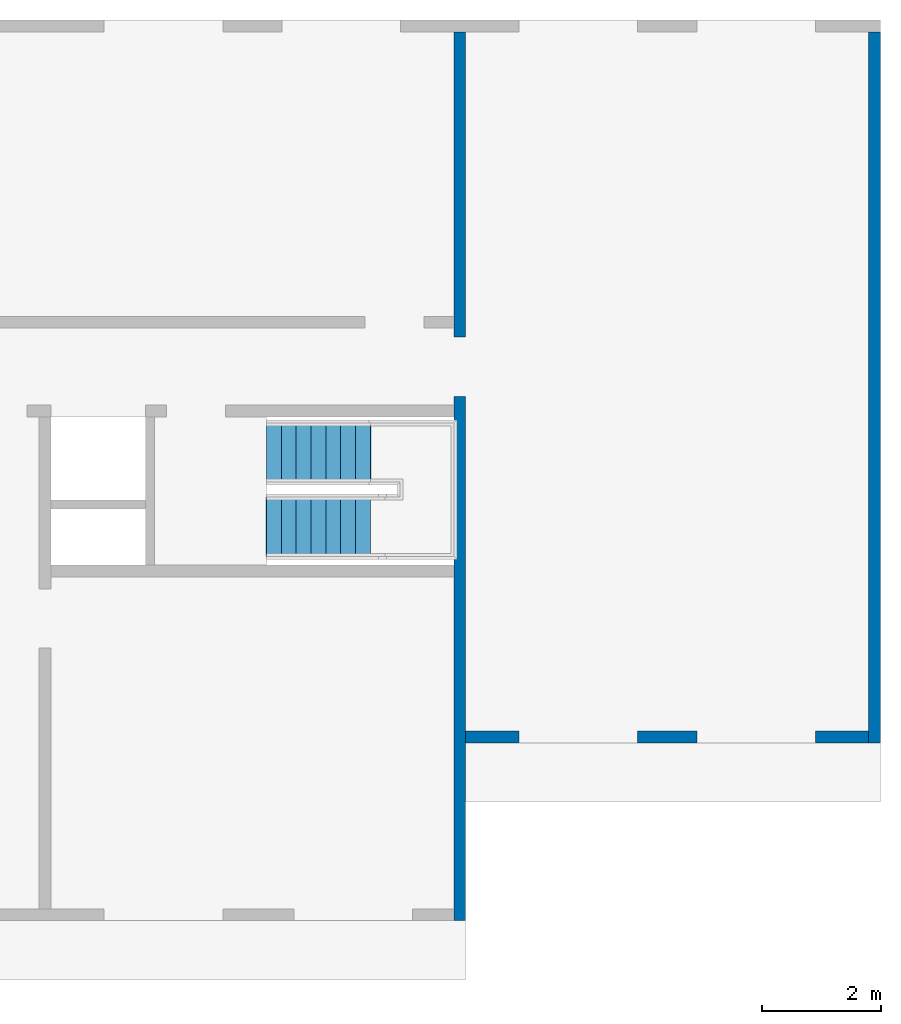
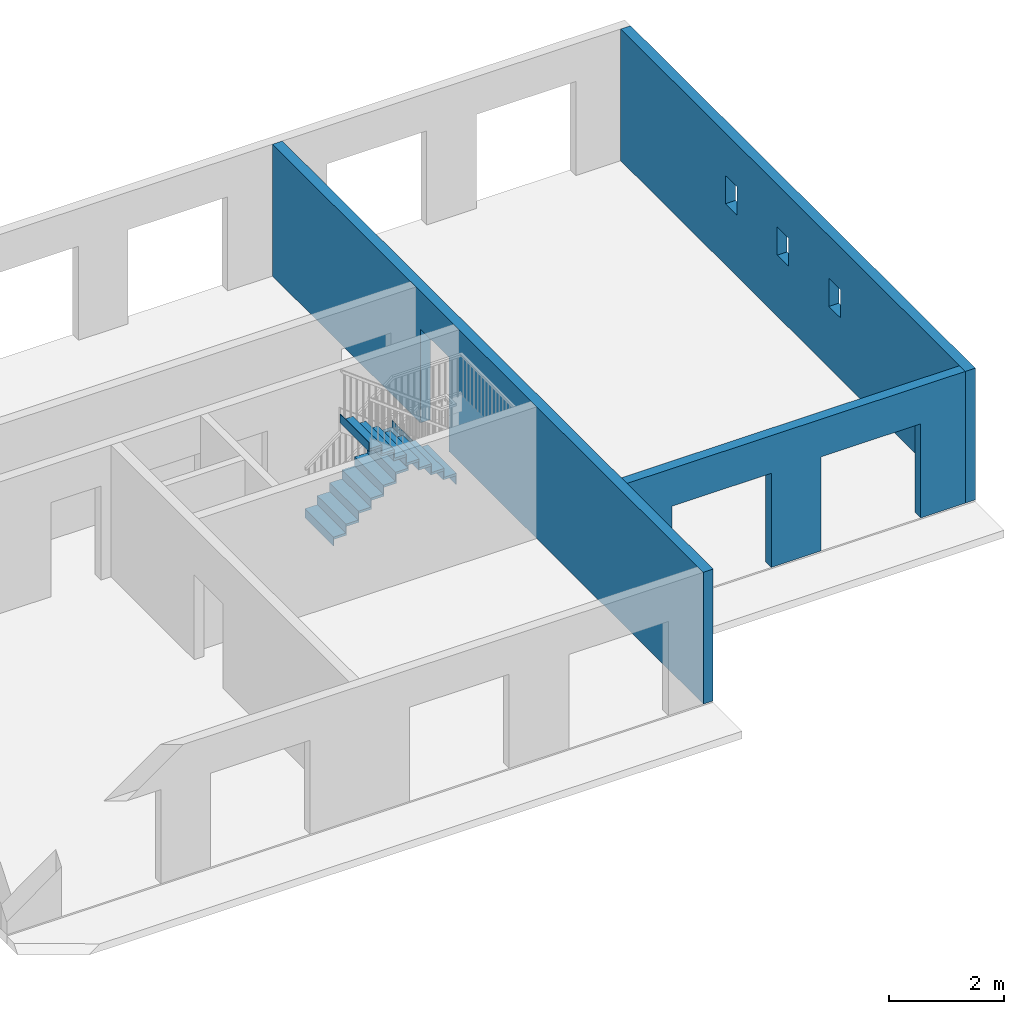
# One storey, part 2 of 3: 3 walls, 2 stair flights, 6 openings, 1 element without a shape of its own.
"""IFC2X3 building model written with IfcOpenShell, lengths in metres."""

from ifc_helpers import new_model, entity, si_unit, converted_unit, derived_unit, direction, frame, frame_2d, origin, origin_2d_with_axis, place, context, subcontext, project, spatial, rectangle, extrude, material, layer, layer_set, layer_usage, type_object, element, aggregate, save


model = new_model("IFC2X3")

# Units and contexts
model_context = context("Model", 3, precision=1e-05, world=origin(), true_north=direction((6.12303176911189e-17, 1.0)))
body_context = subcontext(model_context, "Body", "Model", "MODEL_VIEW")
ifc_project = project(units=[si_unit("LENGTHUNIT", "METRE"), si_unit("AREAUNIT", "SQUARE_METRE"), si_unit("VOLUMEUNIT", "CUBIC_METRE"), converted_unit("PLANEANGLEUNIT", "DEGREE", entity("IfcRatioMeasure", 0.0174532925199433), si_unit("PLANEANGLEUNIT", "RADIAN"), dimensions=[0, 0, 0, 0, 0, 0, 0]), si_unit("MASSUNIT", "GRAM", prefix="KILO"), derived_unit("MASSDENSITYUNIT", [(si_unit("MASSUNIT", "GRAM", prefix="KILO"), 1), (si_unit("LENGTHUNIT", "METRE"), -3)]), si_unit("TIMEUNIT", "SECOND"), si_unit("FREQUENCYUNIT", "HERTZ"), si_unit("THERMODYNAMICTEMPERATUREUNIT", "DEGREE_CELSIUS"), derived_unit("THERMALTRANSMITTANCEUNIT", [(si_unit("MASSUNIT", "GRAM", prefix="KILO"), 1), (si_unit("THERMODYNAMICTEMPERATUREUNIT", "KELVIN"), -1), (si_unit("TIMEUNIT", "SECOND"), -3)]), derived_unit("VOLUMETRICFLOWRATEUNIT", [(si_unit("LENGTHUNIT", "METRE"), 3), (si_unit("TIMEUNIT", "SECOND"), -1)]), si_unit("ELECTRICCURRENTUNIT", "AMPERE"), si_unit("ELECTRICVOLTAGEUNIT", "VOLT"), si_unit("POWERUNIT", "WATT"), si_unit("FORCEUNIT", "NEWTON"), si_unit("ILLUMINANCEUNIT", "LUX"), si_unit("LUMINOUSFLUXUNIT", "LUMEN"), si_unit("LUMINOUSINTENSITYUNIT", "CANDELA"), derived_unit("USERDEFINED", [(si_unit("MASSUNIT", "GRAM", prefix="KILO"), -1), (si_unit("LENGTHUNIT", "METRE"), -2), (si_unit("TIMEUNIT", "SECOND"), 3), (si_unit("LUMINOUSFLUXUNIT", "LUMEN"), 1)]), derived_unit("LINEARVELOCITYUNIT", [(si_unit("LENGTHUNIT", "METRE"), 1), (si_unit("TIMEUNIT", "SECOND"), -1)]), si_unit("PRESSUREUNIT", "PASCAL"), derived_unit("USERDEFINED", [(si_unit("LENGTHUNIT", "METRE"), -2), (si_unit("MASSUNIT", "GRAM", prefix="KILO"), 1), (si_unit("TIMEUNIT", "SECOND"), -2)])], contexts=[model_context])

# Site, building, storey
site_placement = place(None, origin())
site = spatial("IfcSite", under=ifc_project, at=site_placement, Name="Default", CompositionType="ELEMENT")
building_placement = place(site_placement, origin())
building = spatial("IfcBuilding", under=site, at=building_placement, CompositionType="ELEMENT")
storey_placement = place(building_placement, frame((0.0, 0.0, 6.0)))
storey = spatial("IfcBuildingStorey", under=building, at=storey_placement, Name="R+2", CompositionType="ELEMENT", Elevation=5.99999999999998)

# Wall, openings
ifc_material = material(Name="Béton - Coulé sur place - Béton20")
ifc_layer = layer(ifc_material, 0.2)
ifc_layer_set = layer_set([ifc_layer], Name="Mur de base:Générique - 200 mm")
ifc_layer_usage_1 = layer_usage(ifc_layer_set, "AXIS2", "NEGATIVE", 0.1)
wall_type = type_object("IfcWallType", Name="Mur de base:Générique - 200 mm", PredefinedType="STANDARD", material=ifc_layer_set)
wall_1_placement = place(storey_placement, frame((15.7926639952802, 8.86181014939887, 0.200000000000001), z_axis=(0.0, 0.0, 1.0), x_axis=(0.0, -1.0, 0.0)))
wall_1 = element("IfcWallStandardCase", 1, at=wall_1_placement, inside=storey, type_object=wall_type, material=ifc_layer_usage_1, Name="Mur de base:Générique - 200 mm", ObjectType="Mur de base:Générique - 200 mm:1044", context=body_context, shape_type="SweptSolid", body=[
    extrude(rectangle(XDim=12.0, YDim=0.200000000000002, at=frame_2d((6.0, 0.0), x_axis=(-1.0, 0.0))), origin(), (0.0, 0.0, 1.0), 2.80000000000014),
])
opening_1_placement = place(wall_1_placement, frame((8.86181014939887, -15.7926639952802, -0.200000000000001), z_axis=(0.0, 0.0, 1.0), x_axis=(0.0, 1.0, 0.0)))
element("IfcOpeningElement", 2, at=opening_1_placement, cuts=wall_1, Name="Mur de base:Générique - 200 mm", ObjectType="Opening", context=body_context, shape_type="SweptSolid", body=[
    extrude(rectangle(XDim=0.6, YDim=0.4, at=frame_2d((0.0, 1.08246744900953e-15), x_axis=(0.0, 1.0))), frame((14.1686639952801, 3.21181014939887, 1.8), z_axis=(1.0, 0.0, 0.0), x_axis=(0.0, -1.0, 0.0)), (0.0, 0.0, 1.0), 3.048),
])
opening_2_placement = place(wall_1_placement, frame((8.86181014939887, -15.7926639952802, -0.200000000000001), z_axis=(0.0, 0.0, 1.0), x_axis=(0.0, 1.0, 0.0)))
element("IfcOpeningElement", 3, at=opening_2_placement, cuts=wall_1, Name="Mur de base:Générique - 200 mm", ObjectType="Opening", context=body_context, shape_type="SweptSolid", body=[
    extrude(rectangle(XDim=0.6, YDim=0.400000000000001, at=frame_2d((-8.04911692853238e-16, 1.08246744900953e-15), x_axis=(0.0, 1.0))), frame((14.1686639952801, 5.01181014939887, 1.8), z_axis=(1.0, 0.0, 0.0), x_axis=(0.0, -1.0, 0.0)), (0.0, 0.0, 1.0), 3.048),
])
opening_3_placement = place(wall_1_placement, frame((8.86181014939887, -15.7926639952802, -0.200000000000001), z_axis=(0.0, 0.0, 1.0), x_axis=(0.0, 1.0, 0.0)))
element("IfcOpeningElement", 4, at=opening_3_placement, cuts=wall_1, Name="Mur de base:Générique - 200 mm", ObjectType="Opening", context=body_context, shape_type="SweptSolid", body=[
    extrude(rectangle(XDim=0.6, YDim=0.4, at=frame_2d((-6.93889390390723e-17, 1.08246744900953e-15), x_axis=(0.0, 1.0))), frame((14.1686639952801, 1.41181014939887, 1.8), z_axis=(1.0, 0.0, 0.0), x_axis=(0.0, -1.0, 0.0)), (0.0, 0.0, 1.0), 3.048),
])

ifc_layer_usage_2 = layer_usage(ifc_layer_set, "AXIS2", "NEGATIVE", 0.1)
wall_2_placement = place(storey_placement, frame((15.6926639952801, -3.03818985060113, 0.200000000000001), z_axis=(0.0, 0.0, 1.0), x_axis=(-1.0, 0.0, 0.0)))
wall_2 = element("IfcWallStandardCase", 5, at=wall_2_placement, inside=storey, type_object=wall_type, material=ifc_layer_usage_2, Name="Mur de base:Générique - 200 mm", ObjectType="Mur de base:Générique - 200 mm:1044", context=body_context, shape_type="SweptSolid", body=[
    extrude(rectangle(XDim=6.8, YDim=0.2, at=frame_2d((3.4, 2.22044604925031e-16), x_axis=(-1.0, 0.0))), origin(), (0.0, 0.0, 1.0), 2.80000000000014),
])
opening_4_placement = place(wall_2_placement, frame((15.6926639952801, -3.03818985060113, -0.200000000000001), z_axis=(0.0, 0.0, 1.0), x_axis=(-1.0, 0.0, 0.0)))
element("IfcOpeningElement", 6, at=opening_4_placement, cuts=wall_2, Name="Mur de base:Générique - 200 mm", ObjectType="Opening", context=body_context, shape_type="SweptSolid", body=[
    extrude(rectangle(XDim=2.0, YDim=2.0, at=frame_2d((0.0, 0.0), x_axis=(0.0, 1.0))), frame((10.7926639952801, -1.41418985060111, 1.2), z_axis=(0.0, -1.0, 0.0), x_axis=(-1.0, 0.0, 0.0)), (0.0, 0.0, 1.0), 3.048),
])
opening_5_placement = place(wall_2_placement, frame((15.6926639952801, -3.03818985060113, -0.200000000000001), z_axis=(0.0, 0.0, 1.0), x_axis=(-1.0, 0.0, 0.0)))
element("IfcOpeningElement", 7, at=opening_5_placement, cuts=wall_2, Name="Mur de base:Générique - 200 mm", ObjectType="Opening", context=body_context, shape_type="SweptSolid", body=[
    extrude(rectangle(XDim=2.0, YDim=2.0, at=frame_2d((0.0, 0.0), x_axis=(0.0, 1.0))), frame((13.7926639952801, -1.41418985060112, 1.2), z_axis=(0.0, -1.0, 0.0), x_axis=(-1.0, 0.0, 0.0)), (0.0, 0.0, 1.0), 3.048),
])

# Wall, opening
ifc_layer_usage_3 = layer_usage(ifc_layer_set, "AXIS2", "NEGATIVE", 0.1)
wall_3_placement = place(storey_placement, frame((8.79266399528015, 8.86181014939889, 0.200000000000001), z_axis=(0.0, 0.0, 1.0), x_axis=(0.0, -1.0, 0.0)))
wall_3 = element("IfcWallStandardCase", 8, at=wall_3_placement, inside=storey, type_object=wall_type, material=ifc_layer_usage_3, Name="Mur de base:Générique - 200 mm", ObjectType="Mur de base:Générique - 200 mm:1044", context=body_context, shape_type="SweptSolid", body=[
    extrude(rectangle(XDim=15.0, YDim=0.2, at=frame_2d((7.5, 0.0), x_axis=(-1.0, 0.0))), origin(), (0.0, 0.0, 1.0), 2.80000000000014),
])
opening_6_placement = place(wall_3_placement, frame((8.86181014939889, -8.79266399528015, -0.200000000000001), z_axis=(0.0, 0.0, 1.0), x_axis=(0.0, 1.0, 0.0)))
element("IfcOpeningElement", 9, at=opening_6_placement, cuts=wall_3, Name="Mur de base:Générique - 200 mm", ObjectType="Opening", context=body_context, shape_type="SweptSolid", body=[
    extrude(rectangle(XDim=2.0, YDim=1.0, at=frame_2d((-2.4980018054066e-16, 0.0), x_axis=(0.0, 1.0))), frame((7.16866399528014, 3.2118101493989, 1.2), z_axis=(1.0, 0.0, 0.0), x_axis=(0.0, -1.0, 0.0)), (0.0, 0.0, 1.0), 3.048),
])

# Stair, stair flights
stair_placement = place(storey_placement, origin())
stair = element("IfcStair", 10, at=stair_placement, inside=storey, Name="Escalier assemblé:Escalier", ObjectType="Escalier assemblé:Contremarche 190 mm max marche 250\xa0mm", ShapeType="NOTDEFINED")
stair_flight_1_placement = place(stair_placement, origin())
stair_flight_1 = element("IfcStairFlight", 11, at=stair_flight_1_placement, Name="Escalier assemblé:Escalier:468124 Run 1", ObjectType="Escalier assemblé:Contremarche 190 mm max marche 250\xa0mm", NumberOfRiser=8, NumberOfTreads=7, RiserHeight=0.617569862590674, TreadLength=0.820209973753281, context=body_context, shape_type="SweptSolid", body=[
    extrude(rectangle(XDim=1.0, YDim=0.0125000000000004, at=frame_2d((0.0, -5.41233724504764e-16), x_axis=(1.0, 0.0))), frame((5.53891399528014, 1.76181014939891, 0.176470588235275), z_axis=(0.0, 0.0, 1.0), x_axis=(0.0, 1.0, 0.0)), (0.0, 0.0, 1.0), 0.138235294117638),
    extrude(rectangle(XDim=0.249999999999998, YDim=1.0, at=frame_2d((-5.41233724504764e-16, 1.66533453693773e-16), x_axis=(1.0, 0.0))), frame((5.65766399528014, 1.76181014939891, 0.314705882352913), z_axis=(0.0, 0.0, 1.0), x_axis=(-1.0, 0.0, 0.0)), (0.0, 0.0, 1.0), 0.0499999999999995),
    extrude(rectangle(XDim=1.0, YDim=0.0125000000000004, at=frame_2d((0.0, -5.41233724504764e-16), x_axis=(1.0, 0.0))), frame((5.78891399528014, 1.76181014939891, 0.314705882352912), z_axis=(0.0, 0.0, 1.0), x_axis=(0.0, 1.0, 0.0)), (0.0, 0.0, 1.0), 0.188235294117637),
    extrude(rectangle(XDim=0.250000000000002, YDim=1.0, at=frame_2d((0.0, 1.66533453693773e-16), x_axis=(1.0, 0.0))), frame((5.90766399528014, 1.76181014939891, 0.502941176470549), z_axis=(0.0, 0.0, 1.0), x_axis=(-1.0, 0.0, 0.0)), (0.0, 0.0, 1.0), 0.0499999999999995),
    extrude(rectangle(XDim=1.0, YDim=0.0125000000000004, at=frame_2d((0.0, -5.41233724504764e-16), x_axis=(1.0, 0.0))), frame((6.03891399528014, 1.76181014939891, 0.50294117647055), z_axis=(0.0, 0.0, 1.0), x_axis=(0.0, 1.0, 0.0)), (0.0, 0.0, 1.0), 0.188235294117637),
    extrude(rectangle(XDim=0.250000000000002, YDim=1.0, at=frame_2d((0.0, -1.66533453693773e-16), x_axis=(1.0, 0.0))), frame((6.15766399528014, 1.76181014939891, 0.691176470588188), z_axis=(0.0, 0.0, 1.0), x_axis=(-1.0, 0.0, 0.0)), (0.0, 0.0, 1.0), 0.0499999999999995),
    extrude(rectangle(XDim=1.0, YDim=0.0125000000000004, at=frame_2d((0.0, -5.41233724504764e-16), x_axis=(1.0, 0.0))), frame((6.28891399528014, 1.7618101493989, 0.691176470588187), z_axis=(0.0, 0.0, 1.0), x_axis=(0.0, 1.0, 0.0)), (0.0, 0.0, 1.0), 0.188235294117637),
    extrude(rectangle(XDim=0.250000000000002, YDim=1.0, at=frame_2d((0.0, 1.66533453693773e-16), x_axis=(1.0, 0.0))), frame((6.40766399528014, 1.7618101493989, 0.879411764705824), z_axis=(0.0, 0.0, 1.0), x_axis=(-1.0, 0.0, 0.0)), (0.0, 0.0, 1.0), 0.0499999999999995),
    extrude(rectangle(XDim=1.0, YDim=0.0125000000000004, at=frame_2d((0.0, -5.41233724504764e-16), x_axis=(1.0, 0.0))), frame((6.53891399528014, 1.7618101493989, 0.879411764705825), z_axis=(0.0, 0.0, 1.0), x_axis=(0.0, 1.0, 0.0)), (0.0, 0.0, 1.0), 0.188235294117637),
    extrude(rectangle(XDim=0.250000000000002, YDim=1.0, at=frame_2d((0.0, -1.66533453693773e-16), x_axis=(1.0, 0.0))), frame((6.65766399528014, 1.7618101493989, 1.06764705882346), z_axis=(0.0, 0.0, 1.0), x_axis=(-1.0, 0.0, 0.0)), (0.0, 0.0, 1.0), 0.0499999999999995),
    extrude(rectangle(XDim=1.0, YDim=0.0125000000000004, at=frame_2d((0.0, 5.41233724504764e-16), x_axis=(1.0, 0.0))), frame((6.78891399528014, 1.7618101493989, 1.06764705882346), z_axis=(0.0, 0.0, 1.0), x_axis=(0.0, 1.0, 0.0)), (0.0, 0.0, 1.0), 0.188235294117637),
    extrude(rectangle(XDim=0.250000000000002, YDim=1.0, at=frame_2d((0.0, 1.66533453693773e-16), x_axis=(1.0, 0.0))), frame((6.90766399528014, 1.7618101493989, 1.2558823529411), z_axis=(0.0, 0.0, 1.0), x_axis=(-1.0, 0.0, 0.0)), (0.0, 0.0, 1.0), 0.0499999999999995),
    extrude(rectangle(XDim=1.0, YDim=0.0125000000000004, at=frame_2d((0.0, -5.41233724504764e-16), x_axis=(1.0, 0.0))), frame((7.03891399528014, 1.7618101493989, 1.2558823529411), z_axis=(0.0, 0.0, 1.0), x_axis=(0.0, 1.0, 0.0)), (0.0, 0.0, 1.0), 0.188235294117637),
    extrude(rectangle(XDim=0.250000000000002, YDim=1.0, at=frame_2d((-1.08246744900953e-15, -1.66533453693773e-16), x_axis=(1.0, 0.0))), frame((7.15766399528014, 1.7618101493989, 1.44411764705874), z_axis=(0.0, 0.0, 1.0), x_axis=(-1.0, 0.0, 0.0)), (0.0, 0.0, 1.0), 0.0499999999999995),
    extrude(rectangle(XDim=1.0, YDim=0.0125000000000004, at=origin_2d_with_axis()), frame((7.28891399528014, 1.7618101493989, 1.44411764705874), z_axis=(0.0, 0.0, 1.0), x_axis=(0.0, 1.0, 0.0)), (0.0, 0.0, 1.0), 0.188235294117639),
])
stair_flight_2_placement = place(stair_placement, origin())
stair_flight_2 = element("IfcStairFlight", 12, at=stair_flight_2_placement, Name="Escalier assemblé:Escalier:468124 Run 2", ObjectType="Escalier assemblé:Contremarche 190 mm max marche 250\xa0mm", NumberOfRiser=8, NumberOfTreads=7, RiserHeight=0.617569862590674, TreadLength=0.820209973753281, context=body_context, shape_type="SweptSolid", body=[
    extrude(rectangle(XDim=1.0, YDim=0.0125000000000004, at=frame_2d((0.0, -1.08290112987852e-15), x_axis=(1.0, 0.0))), frame((7.27641399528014, 0.511810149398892, 1.63235294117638), z_axis=(0.0, 0.0, 1.0), x_axis=(0.0, -1.0, 0.0)), (0.0, 0.0, 1.0), 0.188235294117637),
    extrude(rectangle(XDim=0.249999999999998, YDim=1.0, at=frame_2d((5.41233724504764e-16, -2.77555756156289e-17), x_axis=(1.0, 0.0))), frame((7.15766399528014, 0.511810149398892, 1.82058823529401)), (0.0, 0.0, 1.0), 0.0499999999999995),
    extrude(rectangle(XDim=1.0, YDim=0.0125000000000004, at=origin_2d_with_axis()), frame((7.02641399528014, 0.511810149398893, 1.82058823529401), z_axis=(0.0, 0.0, 1.0), x_axis=(0.0, -1.0, 0.0)), (0.0, 0.0, 1.0), 0.188235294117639),
    extrude(rectangle(XDim=0.250000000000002, YDim=1.0, at=frame_2d((5.41233724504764e-16, -2.77555756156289e-17), x_axis=(1.0, 0.0))), frame((6.90766399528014, 0.511810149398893, 2.00882352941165)), (0.0, 0.0, 1.0), 0.0499999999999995),
    extrude(rectangle(XDim=1.0, YDim=0.0125000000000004, at=frame_2d((0.0, 1.08290112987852e-15), x_axis=(1.0, 0.0))), frame((6.77641399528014, 0.511810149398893, 2.00882352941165), z_axis=(0.0, 0.0, 1.0), x_axis=(0.0, -1.0, 0.0)), (0.0, 0.0, 1.0), 0.188235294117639),
    extrude(rectangle(XDim=0.250000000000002, YDim=1.0, at=frame_2d((-5.41233724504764e-16, 2.77555756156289e-17), x_axis=(1.0, 0.0))), frame((6.65766399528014, 0.511810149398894, 2.19705882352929)), (0.0, 0.0, 1.0), 0.0499999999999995),
    extrude(rectangle(XDim=1.0, YDim=0.0125000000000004, at=origin_2d_with_axis()), frame((6.52641399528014, 0.511810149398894, 2.19705882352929), z_axis=(0.0, 0.0, 1.0), x_axis=(0.0, -1.0, 0.0)), (0.0, 0.0, 1.0), 0.188235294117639),
    extrude(rectangle(XDim=0.250000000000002, YDim=1.0, at=frame_2d((-5.41233724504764e-16, 2.77555756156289e-17), x_axis=(1.0, 0.0))), frame((6.40766399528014, 0.511810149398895, 2.38529411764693)), (0.0, 0.0, 1.0), 0.0499999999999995),
    extrude(rectangle(XDim=1.0, YDim=0.0125000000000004, at=origin_2d_with_axis()), frame((6.27641399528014, 0.511810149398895, 2.38529411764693), z_axis=(0.0, 0.0, 1.0), x_axis=(0.0, -1.0, 0.0)), (0.0, 0.0, 1.0), 0.188235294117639),
    extrude(rectangle(XDim=0.250000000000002, YDim=1.0, at=frame_2d((-5.41233724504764e-16, 2.77555756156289e-17), x_axis=(1.0, 0.0))), frame((6.15766399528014, 0.511810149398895, 2.57352941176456)), (0.0, 0.0, 1.0), 0.0499999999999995),
    extrude(rectangle(XDim=1.0, YDim=0.0125000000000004, at=origin_2d_with_axis()), frame((6.02641399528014, 0.511810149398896, 2.57352941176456), z_axis=(0.0, 0.0, 1.0), x_axis=(0.0, -1.0, 0.0)), (0.0, 0.0, 1.0), 0.188235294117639),
    extrude(rectangle(XDim=0.250000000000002, YDim=1.0, at=frame_2d((-5.41233724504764e-16, 0.0), x_axis=(1.0, 0.0))), frame((5.90766399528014, 0.511810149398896, 2.7617647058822)), (0.0, 0.0, 1.0), 0.0499999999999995),
    extrude(rectangle(XDim=1.0, YDim=0.0125000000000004, at=origin_2d_with_axis()), frame((5.77641399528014, 0.511810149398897, 2.7617647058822), z_axis=(0.0, 0.0, 1.0), x_axis=(0.0, -1.0, 0.0)), (0.0, 0.0, 1.0), 0.188235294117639),
    extrude(rectangle(XDim=0.250000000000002, YDim=1.0, at=frame_2d((-5.41233724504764e-16, 0.0), x_axis=(1.0, 0.0))), frame((5.65766399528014, 0.511810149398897, 2.94999999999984)), (0.0, 0.0, 1.0), 0.0499999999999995),
    extrude(rectangle(XDim=1.0, YDim=0.0125000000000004, at=frame_2d((0.0, -1.08290112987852e-15), x_axis=(1.0, 0.0))), frame((5.52641399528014, 0.511810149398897, 2.94999999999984), z_axis=(0.0, 0.0, 1.0), x_axis=(0.0, -1.0, 0.0)), (0.0, 0.0, 1.0), 0.188235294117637),
])
aggregate(stair, [stair_flight_1, stair_flight_2])

save(model, "model.ifc")
